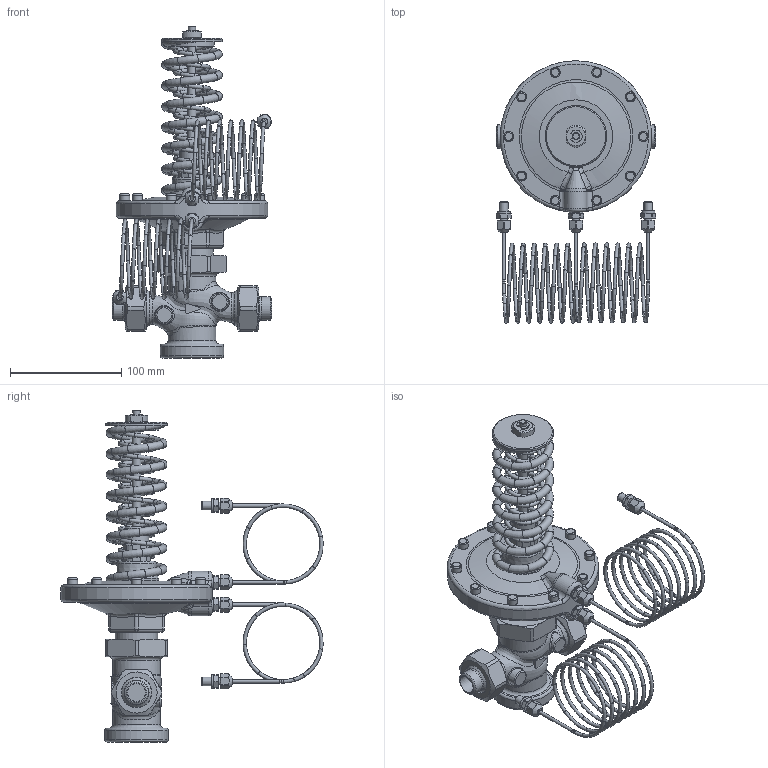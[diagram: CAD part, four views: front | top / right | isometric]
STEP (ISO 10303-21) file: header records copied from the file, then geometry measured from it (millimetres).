
FILE_DESCRIPTION(/* description */ (''),/* implementation_level */ '2;1');
FILE_NAME(/* name */ 'rd122d2_dn15_W.stp',/* time_stamp */ '2012-06-01T11:05:23+02:00',/* author */ ('KLIMES'),/* organization */ ('LDM'),/* preprocessor_version */ 'ST-DEVELOPER v11',/* originating_system */ 'SIEMENS PLM Software NX 7.0',/* authorisation */ '');
FILE_SCHEMA (('CONFIG_CONTROL_DESIGN'));
Length unit declared in the file: millimetre
Products named in the file (1): klimEB58xei9
Bounding box: 143.5 x 235.73 x 298.5 mm (x, y, z)
Volume: 530968.2 mm3; surface area: 179907.4 mm2
Topology: 9 solids, 22 shells, 889 faces, 1998 edges, 1195 vertices
Faces by surface type: torus 324, plane 225, cylinder 203, cone 74, bspline 56, sphere 7
Full cylindrical faces by diameter (mm): 2 x2, 3 x4, 4.891 x10, 6 x12, 6.5 x14, 6.6 x1, 7.794 x4, 8 x7, 9 x10, 12 x4, 16.1 x2, 21 x2, 21.3 x2, 22 x1, 24.5 x1, 27 x2, 27.5 x2, 30 x5, 30.291 x2, 33.249 x2, 35 x1, 38 x1, 40 x2, 43 x2, 55 x1, 57 x1, 136 x1
Entity records: 28343 total; most frequent: CARTESIAN_POINT 11243, DIRECTION 3665, ORIENTED_EDGE 2828, AXIS2_PLACEMENT_3D 1684, EDGE_LOOP 1434, EDGE_CURVE 1414, VERTEX_POINT 1076, FACE_BOUND 1074
